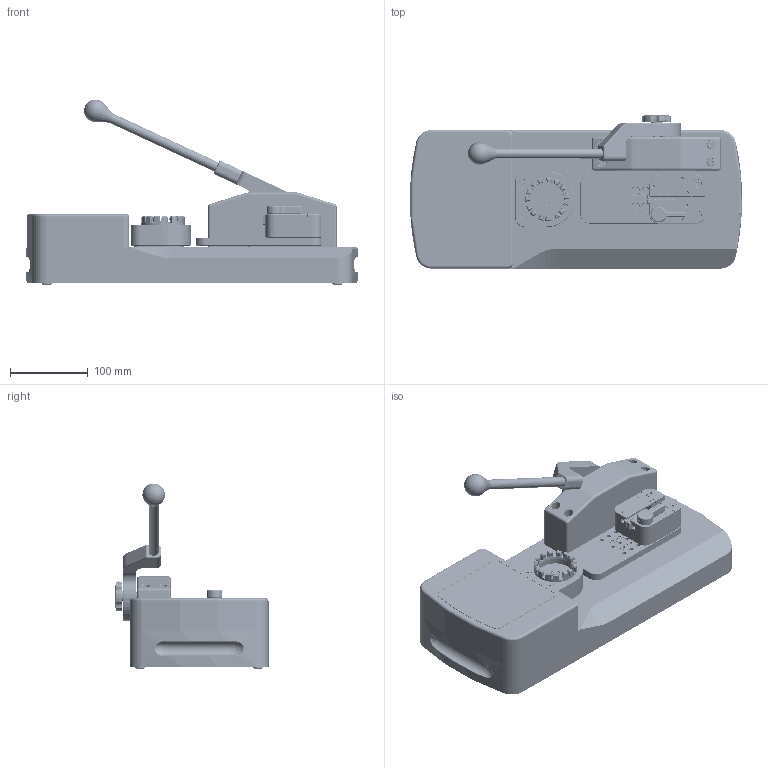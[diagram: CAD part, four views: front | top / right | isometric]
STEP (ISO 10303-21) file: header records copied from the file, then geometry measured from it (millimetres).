
FILE_DESCRIPTION(/* description */ (''),/* implementation_level */ '2;1');
FILE_NAME(/* name */ 'WT-205.stp',/* time_stamp */ '2025-04-18T12:52:58-04:00',/* author */ ('scosgrove'),/* organization */ (''),/* preprocessor_version */ 'ST-DEVELOPER v20',/* originating_system */ 'AutoCAD Mechanical',/* authorisation */ '');
FILE_SCHEMA (('AUTOMOTIVE_DESIGN { 1 0 10303 214 3 1 1 }'));
Length unit declared in the file: inch
Products named in the file (10): Product; 92196A550_18-8 Stainless Steel Socket Head Screw; 98381A587_Dowel Pin; 90128A245_Zinc-Plated Alloy Steel Socket Head Screw; 90128A197_Zinc-Plated Alloy Steel Socket Head Screw; 91102A735_Zinc-Plated Steel Split Lock Washer; 91375A143_Alloy Steel Cup-Point Set Screw; 94052A141_Screw-Head Mount Knob; 92210A551_18-8 Stainless Steel Hex Drive Flat Head Screw; 92210A541_18-8 Stainless Steel Hex Drive Flat Head Screw
Assembly tree (30 placements, depth 2):
  Product
    92196A550_18-8 Stainless Steel Socket Head Screw  x4
    98381A587_Dowel Pin
    90128A245_Zinc-Plated Alloy Steel Socket Head Screw
    90128A197_Zinc-Plated Alloy Steel Socket Head Screw  x4
    91102A735_Zinc-Plated Steel Split Lock Washer  x4
    91375A143_Alloy Steel Cup-Point Set Screw  x6
    94052A141_Screw-Head Mount Knob
    92210A551_18-8 Stainless Steel Hex Drive Flat Head Screw  x4
    92210A541_18-8 Stainless Steel Hex Drive Flat Head Screw  x5
Bounding box: 426.38 x 196.52 x 237.64 mm (x, y, z)
Volume: 3413600 mm3; surface area: 844199.1 mm2
Topology: 96 solids, 137 shells, 10055 faces, 26861 edges, 17355 vertices
Faces by surface type: cylinder 3865, plane 3699, cone 1542, torus 628, bspline 306, sphere 15
Full cylindrical faces by diameter (mm): 0.61 x15, 1.016 x15, 1.6 x1, 2.015 x4, 2.184 x19, 2.367 x14, 2.381 x8, 2.4 x6, 2.413 x10, 2.474 x30, 2.5 x1, 2.845 x19, 3.048 x2, 3.134 x92, 3.162 x2, 3.175 x4, 3.302 x2, 3.505 x78, 3.795 x68, 3.81 x4, 3.861 x2, 4 x4, 4.166 x7, 4.496 x14, 4.7 x247, 4.75 x1, 4.762 x21, 4.775 x9, 4.826 x115, 5.207 x8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
Entity records: 302159 total; most frequent: CARTESIAN_POINT 146062, ORIENTED_EDGE 35278, DIRECTION 29910, EDGE_CURVE 17639, VERTEX_POINT 11477, AXIS2_PLACEMENT_3D 11132, LINE 7646, VECTOR 7646
